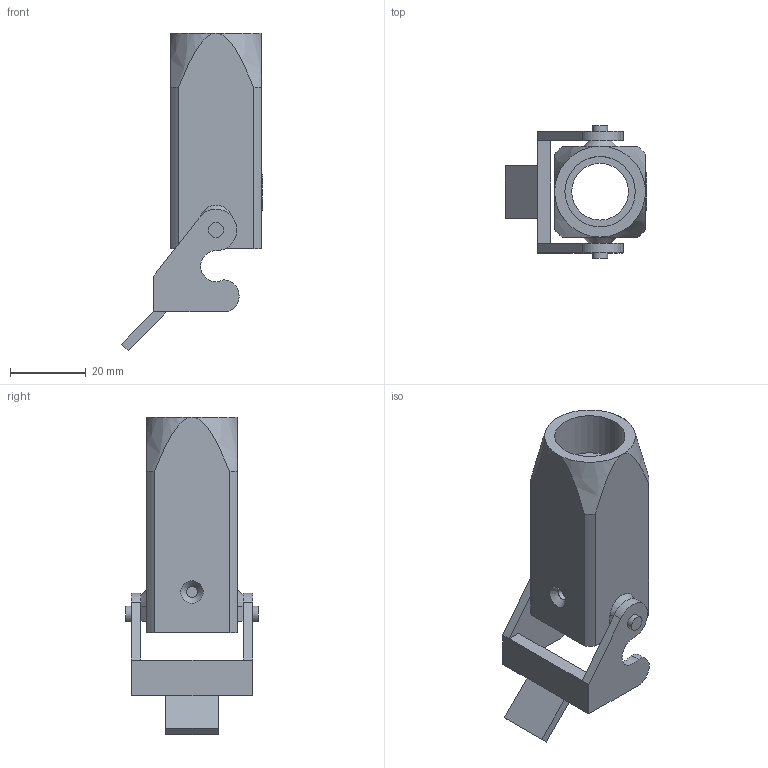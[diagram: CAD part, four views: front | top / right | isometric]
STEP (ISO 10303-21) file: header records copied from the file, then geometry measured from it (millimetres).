
FILE_DESCRIPTION(/* description */ (''),/* implementation_level */ '2;1');
FILE_NAME(/* name */ '100758767ugm000_b.stp',/* time_stamp */ '2022-03-12T06:20:57+01:00',/* author */ (''),/* organization */ (''),/* preprocessor_version */ 'ST-DEVELOPER v16.7',/* originating_system */ 'SIEMENS PLM Software NX 1911',/* authorisation */ '');
FILE_SCHEMA (('AUTOMOTIVE_DESIGN { 1 0 10303 214 3 1 1 1 }'));
Length unit declared in the file: millimetre
Products named in the file (1): 100758767ugm000_b
Bounding box: 37.32 x 35 x 83.95 mm (x, y, z)
Volume: 12519.8 mm3; surface area: 14263.4 mm2
Topology: 2 solids, 2 shells, 180 faces, 468 edges, 310 vertices
Faces by surface type: plane 130, cylinder 29, cone 12, bspline 9
Full cylindrical faces by diameter (mm): 0.7 x1, 0.981 x1, 3 x1, 4 x4, 15 x1, 18.6 x1
Entity records: 7020 total; most frequent: CARTESIAN_POINT 1400, ORIENTED_EDGE 900, DIRECTION 829, EDGE_CURVE 450, LINE 343, VECTOR 343, VERTEX_POINT 303, AXIS2_PLACEMENT_3D 243
